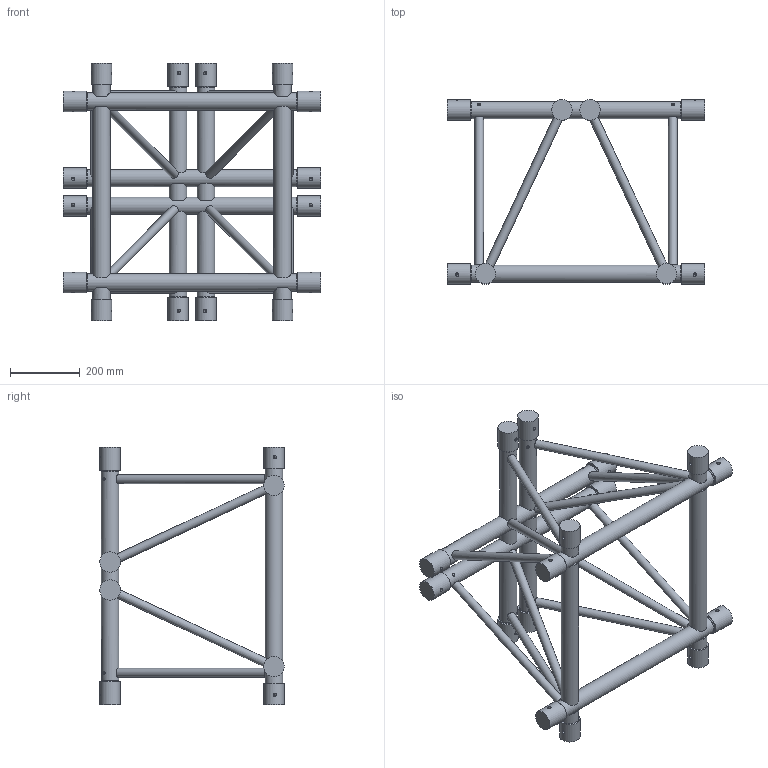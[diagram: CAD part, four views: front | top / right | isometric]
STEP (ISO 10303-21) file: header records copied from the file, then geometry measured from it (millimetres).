
FILE_DESCRIPTION(/* description */ ('FOLDING 52 4-WAY CORNER'),/* implementation_level */ '2;1');
FILE_NAME(/* name */ 'M:\Symbolen_NIEUW\STP\Corners\S52F\S52F-C016_111100023.stp',/* time_stamp */ '2017-11-16T09:41:38+01:00',/* author */ ('Kees'),/* organization */ (''),/* preprocessor_version */ 'ST-DEVELOPER v16.13',/* originating_system */ 'Autodesk Inventor 2018',/* authorisation */ '');
FILE_SCHEMA (('AUTOMOTIVE_DESIGN { 1 0 10303 214 3 1 1 }'));
Length unit declared in the file: millimetre
Products named in the file (1): 260009521
Bounding box: 740 x 528.69 x 740 mm (x, y, z)
Volume: 14356860 mm3; surface area: 1473481.7 mm2
Topology: 14 solids, 14 shells, 362 faces, 916 edges, 590 vertices
Faces by surface type: plane 176, cylinder 130, cone 56
Full cylindrical faces by diameter (mm): 10 x16, 25 x12, 42 x4, 50 x16, 58.8 x16
Entity records: 13312 total; most frequent: CARTESIAN_POINT 4809, DIRECTION 1634, ORIENTED_EDGE 1592, EDGE_CURVE 796, AXIS2_PLACEMENT_3D 709, VERTEX_POINT 580, EDGE_LOOP 544, STYLED_ITEM 341
